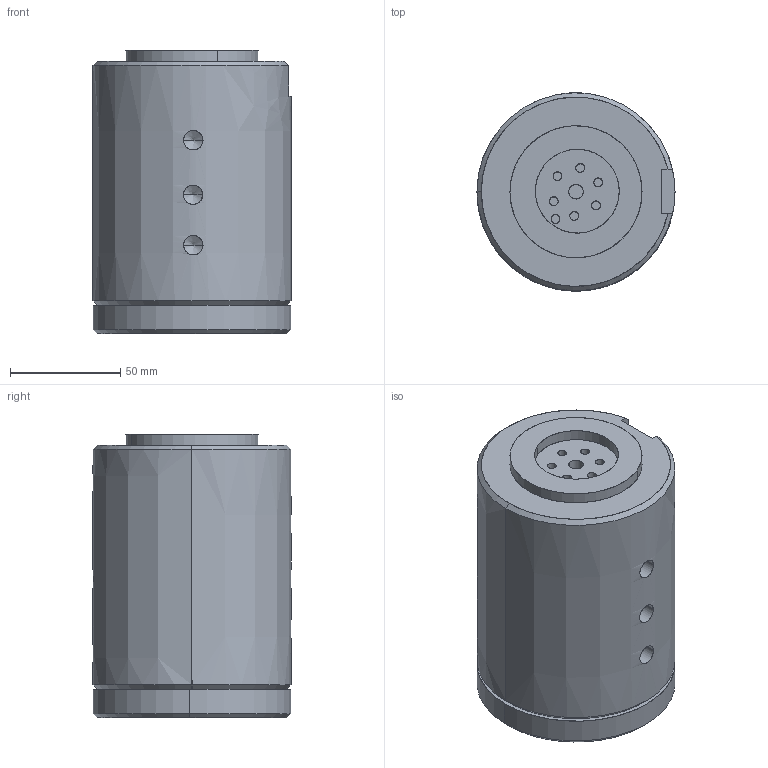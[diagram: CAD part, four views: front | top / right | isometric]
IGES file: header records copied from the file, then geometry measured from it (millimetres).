
Start section: SolidWorks IGES file using analytic representation for surfaces
Global section: file name: E:\ALL SSVT IGS FOLD\6-port rotary-std\6-port rotary-std.STEP.IGS; native system: SolidWorks 2019; preprocessor: SolidWorks 2019; author: SSVT; date: 221117.161220; units: millimetre
Bounding box: 90 x 90 x 129 mm (x, y, z)
Surface area: 112106.6 mm2 (no closed solid volume)
Topology: 0 solids, 0 shells, 104 faces, 2592 edges, 2576 vertices
Faces by surface type: revolution 80, bspline 24
